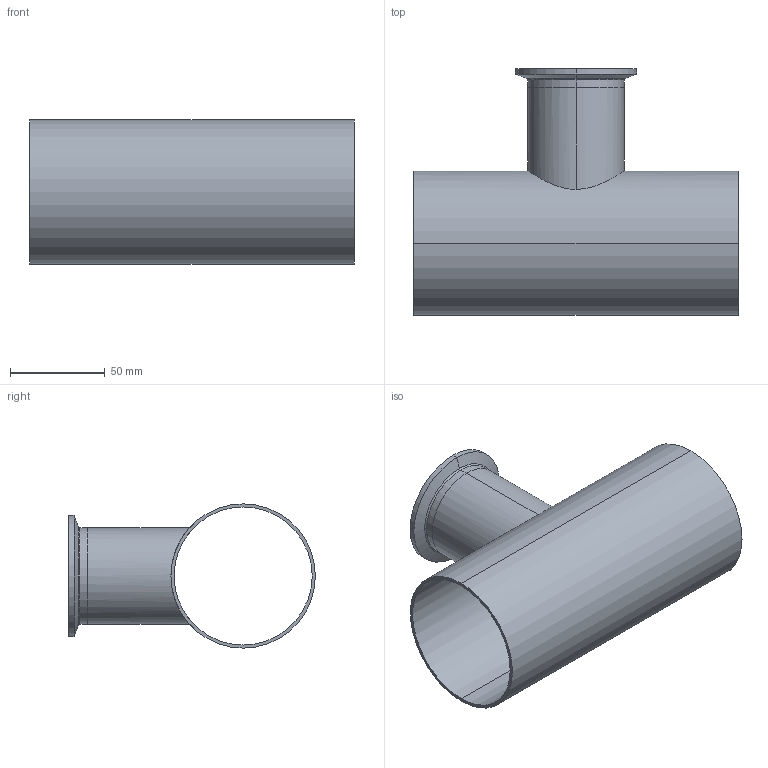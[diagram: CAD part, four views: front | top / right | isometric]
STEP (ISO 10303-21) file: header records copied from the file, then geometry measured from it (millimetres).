
FILE_DESCRIPTION (( 'STEP AP214' ), '1' );
FILE_NAME ('TE7RWWC6L3.0x2.0-...STEP', '2016-05-23T08:47:52', ( 'eran' ), ( '' ), 'SwSTEP 2.0', 'SolidWorks 2016', '' );
FILE_SCHEMA (( 'AUTOMOTIVE_DESIGN' ));
Length unit declared in the file: millimetre
Products named in the file (1): TE7RWWC6L3.0x2.0-..
Bounding box: 171.4 x 130.2 x 76.2 mm (x, y, z)
Volume: 82485.3 mm3; surface area: 98289.4 mm2
Topology: 2 solids, 2 shells, 36 faces, 88 edges, 58 vertices
Faces by surface type: cylinder 14, bspline 10, plane 6, cone 6
Entity records: 2046 total; most frequent: CARTESIAN_POINT 1141, DIRECTION 190, ORIENTED_EDGE 176, EDGE_CURVE 88, AXIS2_PLACEMENT_3D 85, VERTEX_POINT 58, CIRCLE 58, EDGE_LOOP 44
